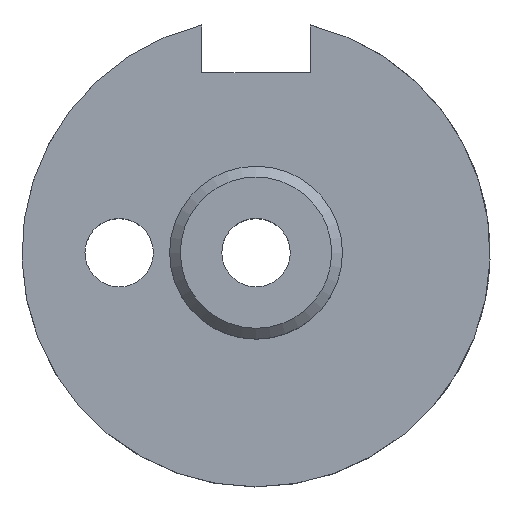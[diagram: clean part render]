
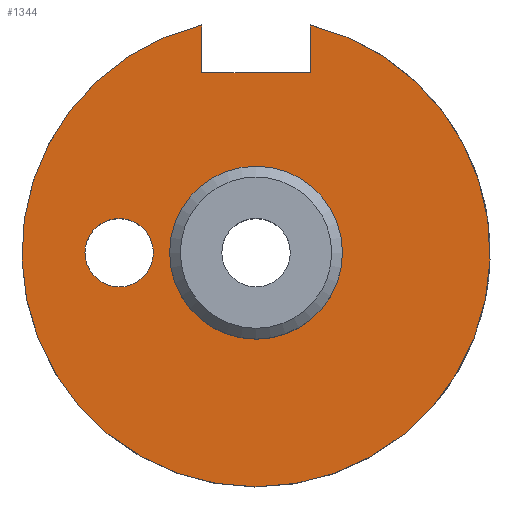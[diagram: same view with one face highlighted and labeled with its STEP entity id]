
A CAD part, top view. The second image highlights one B-rep face of the part: STEP entity #1344.
In plain terms, the highlighted planar face has unit normal (0, 0, 1).
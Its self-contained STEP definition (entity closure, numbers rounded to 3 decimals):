
#21 = EDGE_CURVE('',#22,#24,#26,.T.);
#22 = VERTEX_POINT('',#23);
#23 = CARTESIAN_POINT('',(1.5,6.325,-0.35));
#24 = VERTEX_POINT('',#25);
#25 = CARTESIAN_POINT('',(-1.5,6.325,-0.35));
#26 = SURFACE_CURVE('',#27,(#32,#44),.PCURVE_S1.);
#27 = CIRCLE('',#28,6.5);
#28 = AXIS2_PLACEMENT_3D('',#29,#30,#31);
#29 = CARTESIAN_POINT('',(0.,0.,-0.35));
#30 = DIRECTION('',(0.,0.,-1.));
#31 = DIRECTION('',(0.231,0.973,0.));
#32 = PCURVE('',#33,#38);
#33 = CYLINDRICAL_SURFACE('',#34,6.5);
#34 = AXIS2_PLACEMENT_3D('',#35,#36,#37);
#35 = CARTESIAN_POINT('',(0.,0.,-2.9));
#36 = DIRECTION('',(-0.,-0.,-1.));
#37 = DIRECTION('',(1.,0.,0.));
#38 = DEFINITIONAL_REPRESENTATION('',(#39),#43);
#39 = LINE('',#40,#41);
#40 = CARTESIAN_POINT('',(-7.621,-2.55));
#41 = VECTOR('',#42,1.);
#42 = DIRECTION('',(1.,-0.));
#43 = ( GEOMETRIC_REPRESENTATION_CONTEXT(2) 
PARAMETRIC_REPRESENTATION_CONTEXT() REPRESENTATION_CONTEXT('2D SPACE',''
  ) );
#44 = PCURVE('',#45,#50);
#45 = PLANE('',#46);
#46 = AXIS2_PLACEMENT_3D('',#47,#48,#49);
#47 = CARTESIAN_POINT('',(0.,0.,-0.35));
#48 = DIRECTION('',(0.,0.,1.));
#49 = DIRECTION('',(1.,0.,-0.));
#50 = DEFINITIONAL_REPRESENTATION('',(#51),#59);
#51 = ( BOUNDED_CURVE() B_SPLINE_CURVE(2,(#52,#53,#54,#55,#56,#57,#58),
.UNSPECIFIED.,.T.,.F.) B_SPLINE_CURVE_WITH_KNOTS((1,2,2,2,2,1),(
    -2.094,0.,2.094,4.189,6.283,
8.378),.UNSPECIFIED.) CURVE() GEOMETRIC_REPRESENTATION_ITEM() 
RATIONAL_B_SPLINE_CURVE((1.,0.5,1.,0.5,1.,0.5,1.)) REPRESENTATION_ITEM(
  '') );
#52 = CARTESIAN_POINT('',(1.5,6.325));
#53 = CARTESIAN_POINT('',(12.454,3.726));
#54 = CARTESIAN_POINT('',(4.727,-4.461));
#55 = CARTESIAN_POINT('',(-3.,-12.649));
#56 = CARTESIAN_POINT('',(-6.227,-1.863));
#57 = CARTESIAN_POINT('',(-9.454,8.923));
#58 = CARTESIAN_POINT('',(1.5,6.325));
#59 = ( GEOMETRIC_REPRESENTATION_CONTEXT(2) 
PARAMETRIC_REPRESENTATION_CONTEXT() REPRESENTATION_CONTEXT('2D SPACE',''
  ) );
#76 = PLANE('',#77);
#77 = AXIS2_PLACEMENT_3D('',#78,#79,#80);
#78 = CARTESIAN_POINT('',(1.5,5.,-3.4));
#79 = DIRECTION('',(1.,0.,0.));
#80 = DIRECTION('',(0.,0.,1.));
#236 = PLANE('',#237);
#237 = AXIS2_PLACEMENT_3D('',#238,#239,#240);
#238 = CARTESIAN_POINT('',(-1.5,5.,-3.4));
#239 = DIRECTION('',(1.,0.,0.));
#240 = DIRECTION('',(0.,0.,1.));
#253 = VERTEX_POINT('',#254);
#254 = CARTESIAN_POINT('',(-1.5,5.,-0.35));
#268 = PLANE('',#269);
#269 = AXIS2_PLACEMENT_3D('',#270,#271,#272);
#270 = CARTESIAN_POINT('',(-1.5,5.,-3.4));
#271 = DIRECTION('',(0.,1.,0.));
#272 = DIRECTION('',(0.,0.,1.));
#300 = EDGE_CURVE('',#253,#24,#301,.T.);
#301 = SURFACE_CURVE('',#302,(#306,#312),.PCURVE_S1.);
#302 = LINE('',#303,#304);
#303 = CARTESIAN_POINT('',(-1.5,2.5,-0.35));
#304 = VECTOR('',#305,1.);
#305 = DIRECTION('',(0.,1.,0.));
#306 = PCURVE('',#236,#307);
#307 = DEFINITIONAL_REPRESENTATION('',(#308),#311);
#308 = B_SPLINE_CURVE_WITH_KNOTS('',1,(#309,#310),.UNSPECIFIED.,.F.,.F.,
  (2,2),(2.5,4.),.PIECEWISE_BEZIER_KNOTS.);
#309 = CARTESIAN_POINT('',(3.05,0.));
#310 = CARTESIAN_POINT('',(3.05,-1.5));
#311 = ( GEOMETRIC_REPRESENTATION_CONTEXT(2) 
PARAMETRIC_REPRESENTATION_CONTEXT() REPRESENTATION_CONTEXT('2D SPACE',''
  ) );
#312 = PCURVE('',#45,#313);
#313 = DEFINITIONAL_REPRESENTATION('',(#314),#317);
#314 = B_SPLINE_CURVE_WITH_KNOTS('',1,(#315,#316),.UNSPECIFIED.,.F.,.F.,
  (2,2),(2.5,4.),.PIECEWISE_BEZIER_KNOTS.);
#315 = CARTESIAN_POINT('',(-1.5,5.));
#316 = CARTESIAN_POINT('',(-1.5,6.5));
#317 = ( GEOMETRIC_REPRESENTATION_CONTEXT(2) 
PARAMETRIC_REPRESENTATION_CONTEXT() REPRESENTATION_CONTEXT('2D SPACE',''
  ) );
#325 = VERTEX_POINT('',#326);
#326 = CARTESIAN_POINT('',(1.5,5.,-0.35));
#367 = EDGE_CURVE('',#325,#253,#368,.T.);
#368 = SURFACE_CURVE('',#369,(#373,#379),.PCURVE_S1.);
#369 = LINE('',#370,#371);
#370 = CARTESIAN_POINT('',(-0.75,5.,-0.35));
#371 = VECTOR('',#372,1.);
#372 = DIRECTION('',(-1.,0.,0.));
#373 = PCURVE('',#268,#374);
#374 = DEFINITIONAL_REPRESENTATION('',(#375),#378);
#375 = B_SPLINE_CURVE_WITH_KNOTS('',1,(#376,#377),.UNSPECIFIED.,.F.,.F.,
  (2,2),(-2.25,0.75),.PIECEWISE_BEZIER_KNOTS.);
#376 = CARTESIAN_POINT('',(3.05,3.));
#377 = CARTESIAN_POINT('',(3.05,0.));
#378 = ( GEOMETRIC_REPRESENTATION_CONTEXT(2) 
PARAMETRIC_REPRESENTATION_CONTEXT() REPRESENTATION_CONTEXT('2D SPACE',''
  ) );
#379 = PCURVE('',#45,#380);
#380 = DEFINITIONAL_REPRESENTATION('',(#381),#384);
#381 = B_SPLINE_CURVE_WITH_KNOTS('',1,(#382,#383),.UNSPECIFIED.,.F.,.F.,
  (2,2),(-2.25,0.75),.PIECEWISE_BEZIER_KNOTS.);
#382 = CARTESIAN_POINT('',(1.5,5.));
#383 = CARTESIAN_POINT('',(-1.5,5.));
#384 = ( GEOMETRIC_REPRESENTATION_CONTEXT(2) 
PARAMETRIC_REPRESENTATION_CONTEXT() REPRESENTATION_CONTEXT('2D SPACE',''
  ) );
#815 = CYLINDRICAL_SURFACE('',#816,0.95);
#816 = AXIS2_PLACEMENT_3D('',#817,#818,#819);
#817 = CARTESIAN_POINT('',(-3.8,0.,-3.9));
#818 = DIRECTION('',(-0.,-0.,-1.));
#819 = DIRECTION('',(1.,0.,0.));
#976 = CYLINDRICAL_SURFACE('',#977,2.4);
#977 = AXIS2_PLACEMENT_3D('',#978,#979,#980);
#978 = CARTESIAN_POINT('',(0.,0.,-0.35));
#979 = DIRECTION('',(-0.,-0.,-1.));
#980 = DIRECTION('',(1.,0.,0.));
#1011 = EDGE_CURVE('',#1012,#1012,#1014,.T.);
#1012 = VERTEX_POINT('',#1013);
#1013 = CARTESIAN_POINT('',(2.4,0.,-0.35));
#1014 = SURFACE_CURVE('',#1015,(#1020,#1027),.PCURVE_S1.);
#1015 = CIRCLE('',#1016,2.4);
#1016 = AXIS2_PLACEMENT_3D('',#1017,#1018,#1019);
#1017 = CARTESIAN_POINT('',(0.,0.,-0.35));
#1018 = DIRECTION('',(0.,0.,1.));
#1019 = DIRECTION('',(1.,0.,0.));
#1020 = PCURVE('',#976,#1021);
#1021 = DEFINITIONAL_REPRESENTATION('',(#1022),#1026);
#1022 = LINE('',#1023,#1024);
#1023 = CARTESIAN_POINT('',(-0.,0.));
#1024 = VECTOR('',#1025,1.);
#1025 = DIRECTION('',(-1.,0.));
#1026 = ( GEOMETRIC_REPRESENTATION_CONTEXT(2) 
PARAMETRIC_REPRESENTATION_CONTEXT() REPRESENTATION_CONTEXT('2D SPACE',''
  ) );
#1027 = PCURVE('',#45,#1028);
#1028 = DEFINITIONAL_REPRESENTATION('',(#1029),#1033);
#1029 = CIRCLE('',#1030,2.4);
#1030 = AXIS2_PLACEMENT_2D('',#1031,#1032);
#1031 = CARTESIAN_POINT('',(0.,0.));
#1032 = DIRECTION('',(1.,0.));
#1033 = ( GEOMETRIC_REPRESENTATION_CONTEXT(2) 
PARAMETRIC_REPRESENTATION_CONTEXT() REPRESENTATION_CONTEXT('2D SPACE',''
  ) );
#1063 = VERTEX_POINT('',#1064);
#1064 = CARTESIAN_POINT('',(-2.85,0.,-0.35));
#1085 = EDGE_CURVE('',#1063,#1063,#1086,.T.);
#1086 = SURFACE_CURVE('',#1087,(#1092,#1099),.PCURVE_S1.);
#1087 = CIRCLE('',#1088,0.95);
#1088 = AXIS2_PLACEMENT_3D('',#1089,#1090,#1091);
#1089 = CARTESIAN_POINT('',(-3.8,0.,-0.35));
#1090 = DIRECTION('',(0.,0.,-1.));
#1091 = DIRECTION('',(1.,0.,0.));
#1092 = PCURVE('',#815,#1093);
#1093 = DEFINITIONAL_REPRESENTATION('',(#1094),#1098);
#1094 = LINE('',#1095,#1096);
#1095 = CARTESIAN_POINT('',(-6.283,-3.55));
#1096 = VECTOR('',#1097,1.);
#1097 = DIRECTION('',(1.,-0.));
#1098 = ( GEOMETRIC_REPRESENTATION_CONTEXT(2) 
PARAMETRIC_REPRESENTATION_CONTEXT() REPRESENTATION_CONTEXT('2D SPACE',''
  ) );
#1099 = PCURVE('',#45,#1100);
#1100 = DEFINITIONAL_REPRESENTATION('',(#1101),#1109);
#1101 = ( BOUNDED_CURVE() B_SPLINE_CURVE(2,(#1102,#1103,#1104,#1105,
#1106,#1107,#1108),.UNSPECIFIED.,.T.,.F.) B_SPLINE_CURVE_WITH_KNOTS((1,2
    ,2,2,2,1),(-2.094,0.,2.094,4.189,
6.283,8.378),.UNSPECIFIED.) CURVE() 
GEOMETRIC_REPRESENTATION_ITEM() RATIONAL_B_SPLINE_CURVE((1.,0.5,1.,0.5,
1.,0.5,1.)) REPRESENTATION_ITEM('') );
#1102 = CARTESIAN_POINT('',(-2.85,0.));
#1103 = CARTESIAN_POINT('',(-2.85,-1.645));
#1104 = CARTESIAN_POINT('',(-4.275,-0.823));
#1105 = CARTESIAN_POINT('',(-5.7,0.));
#1106 = CARTESIAN_POINT('',(-4.275,0.823));
#1107 = CARTESIAN_POINT('',(-2.85,1.645));
#1108 = CARTESIAN_POINT('',(-2.85,0.));
#1109 = ( GEOMETRIC_REPRESENTATION_CONTEXT(2) 
PARAMETRIC_REPRESENTATION_CONTEXT() REPRESENTATION_CONTEXT('2D SPACE',''
  ) );
#1326 = EDGE_CURVE('',#325,#22,#1327,.T.);
#1327 = SURFACE_CURVE('',#1328,(#1332,#1338),.PCURVE_S1.);
#1328 = LINE('',#1329,#1330);
#1329 = CARTESIAN_POINT('',(1.5,2.5,-0.35));
#1330 = VECTOR('',#1331,1.);
#1331 = DIRECTION('',(0.,1.,0.));
#1332 = PCURVE('',#76,#1333);
#1333 = DEFINITIONAL_REPRESENTATION('',(#1334),#1337);
#1334 = B_SPLINE_CURVE_WITH_KNOTS('',1,(#1335,#1336),.UNSPECIFIED.,.F.,
  .F.,(2,2),(2.5,4.),.PIECEWISE_BEZIER_KNOTS.);
#1335 = CARTESIAN_POINT('',(3.05,0.));
#1336 = CARTESIAN_POINT('',(3.05,-1.5));
#1337 = ( GEOMETRIC_REPRESENTATION_CONTEXT(2) 
PARAMETRIC_REPRESENTATION_CONTEXT() REPRESENTATION_CONTEXT('2D SPACE',''
  ) );
#1338 = PCURVE('',#45,#1339);
#1339 = DEFINITIONAL_REPRESENTATION('',(#1340),#1343);
#1340 = B_SPLINE_CURVE_WITH_KNOTS('',1,(#1341,#1342),.UNSPECIFIED.,.F.,
  .F.,(2,2),(2.5,4.),.PIECEWISE_BEZIER_KNOTS.);
#1341 = CARTESIAN_POINT('',(1.5,5.));
#1342 = CARTESIAN_POINT('',(1.5,6.5));
#1343 = ( GEOMETRIC_REPRESENTATION_CONTEXT(2) 
PARAMETRIC_REPRESENTATION_CONTEXT() REPRESENTATION_CONTEXT('2D SPACE',''
  ) );
#1344 = ADVANCED_FACE('',(#1345,#1351,#1354),#45,.T.);
#1345 = FACE_BOUND('',#1346,.T.);
#1346 = EDGE_LOOP('',(#1347,#1348,#1349,#1350));
#1347 = ORIENTED_EDGE('',*,*,#300,.T.);
#1348 = ORIENTED_EDGE('',*,*,#21,.F.);
#1349 = ORIENTED_EDGE('',*,*,#1326,.F.);
#1350 = ORIENTED_EDGE('',*,*,#367,.T.);
#1351 = FACE_BOUND('',#1352,.T.);
#1352 = EDGE_LOOP('',(#1353));
#1353 = ORIENTED_EDGE('',*,*,#1085,.T.);
#1354 = FACE_BOUND('',#1355,.T.);
#1355 = EDGE_LOOP('',(#1356));
#1356 = ORIENTED_EDGE('',*,*,#1011,.F.);
